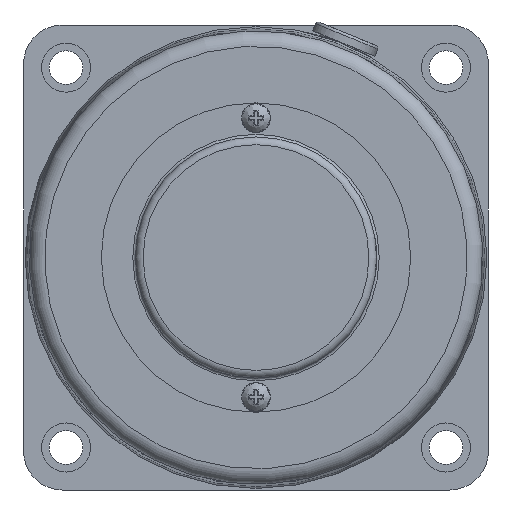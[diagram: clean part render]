
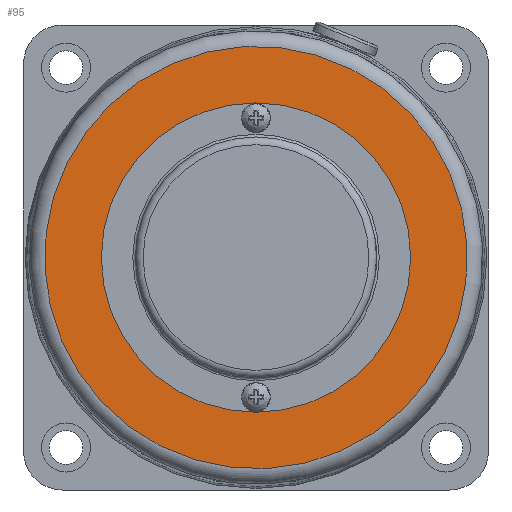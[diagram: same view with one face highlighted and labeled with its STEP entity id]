
A CAD part, left-side view. The second image highlights one B-rep face of the part: STEP entity #95.
In plain terms, the highlighted planar face has unit normal (-1, 0, 0).
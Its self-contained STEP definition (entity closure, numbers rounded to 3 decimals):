
#68=CARTESIAN_POINT('',(-40.5,0.,0.0));
#69=DIRECTION('',(-1.0,0.0,0.0));
#70=DIRECTION('',(0.0,0.395,0.918));
#71=AXIS2_PLACEMENT_3D('',#68,#69,#70);
#72=PLANE('',#71);
#73=CARTESIAN_POINT('',(-40.5,-16.174,-37.566));
#74=VERTEX_POINT('',#73);
#75=CARTESIAN_POINT('',(-40.5,0.,0.0));
#76=DIRECTION('',(1.,0.,0.));
#77=DIRECTION('',(0.,0.395,0.918));
#78=AXIS2_PLACEMENT_3D('',#75,#76,#77);
#79=CIRCLE('',#78,40.9);
#80=EDGE_CURVE('',#74,#74,#79,.T.);
#81=ORIENTED_EDGE('',*,*,#80,.F.);
#82=EDGE_LOOP('',(#81));
#83=FACE_OUTER_BOUND('',#82,.T.);
#84=CARTESIAN_POINT('',(-40.5,0.,29.95));
#85=VERTEX_POINT('',#84);
#86=CARTESIAN_POINT('',(-40.5,0.,0.));
#87=DIRECTION('',(-1.0,0.0,0.0));
#88=DIRECTION('',(0.0,0.0,-1.0));
#89=AXIS2_PLACEMENT_3D('',#86,#87,#88);
#90=CIRCLE('',#89,29.95);
#91=EDGE_CURVE('',#85,#85,#90,.T.);
#92=ORIENTED_EDGE('',*,*,#91,.F.);
#93=EDGE_LOOP('',(#92));
#94=FACE_BOUND('',#93,.T.);
#95=ADVANCED_FACE('',(#83,#94),#72,.T.);
